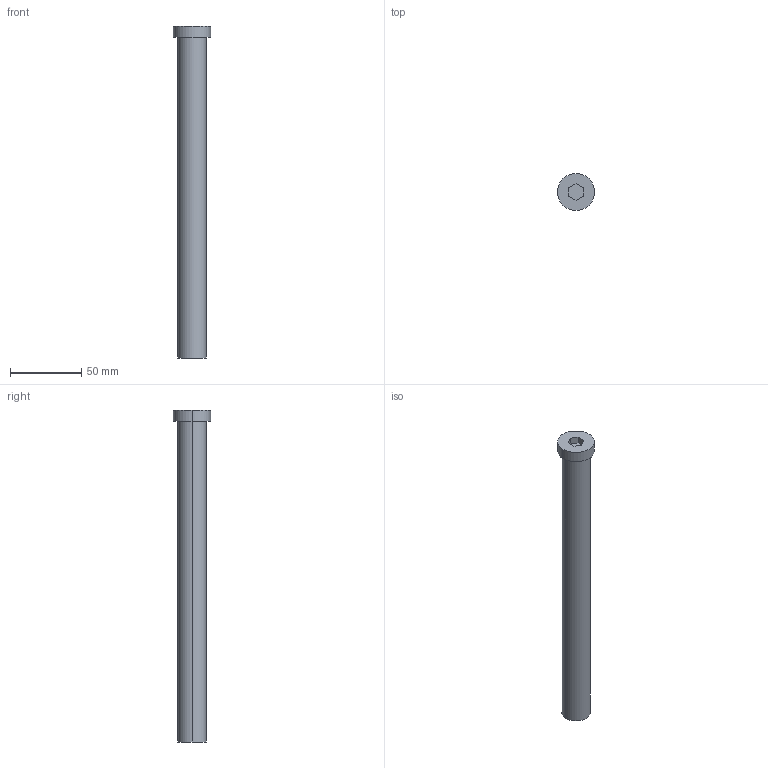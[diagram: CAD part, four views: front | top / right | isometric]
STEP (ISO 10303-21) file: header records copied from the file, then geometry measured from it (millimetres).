
FILE_DESCRIPTION (( 'STEP AP214' ), '1' );
FILE_NAME ('BruyRubio_TGH__20_x_225_-_M-14.STEP', '2019-12-22T23:40:39', ( '' ), ( '' ), 'SwSTEP 2.0', 'SolidWorks 2017', '' );
FILE_SCHEMA (( 'AUTOMOTIVE_DESIGN' ));
Length unit declared in the file: millimetre
Products named in the file (1): BruyRubio_TGH__20_x_225_-_M-14
Bounding box: 26 x 26 x 233 mm (x, y, z)
Volume: 71007.2 mm3; surface area: 19397.7 mm2
Topology: 2 solids, 2 shells, 27 faces, 58 edges, 37 vertices
Faces by surface type: plane 13, cylinder 12, cone 2
Entity records: 1070 total; most frequent: DIRECTION 136, CARTESIAN_POINT 121, ORIENTED_EDGE 112, EDGE_CURVE 56, AXIS2_PLACEMENT_3D 52, VERTEX_POINT 37, EDGE_LOOP 33, VECTOR 32
